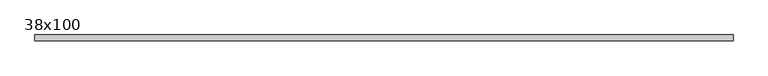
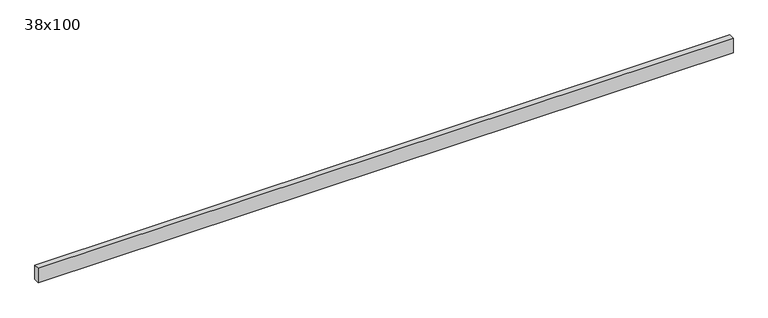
"""IFC4 building model written with IfcOpenShell, lengths in millimetres: beam geometry, Poutre - Bois de construction de dimensions courantes : 38x100."""

from ifc_helpers import new_model, si_unit, frame, origin, place, context, project, spatial, polyline, outline, extrude, source, transform, mapped, element, save


def beam_38x100_3fdc428f(model_context):
    return source(origin(), model_context, "Body", "SweptSolid", [
        extrude(outline(polyline([(2190.0, 19.05), (2190.0, -19.05), (-2350.0, -19.05), (-2350.0, 19.05), (2190.0, 19.05)])), frame((0.0, 0.0, -50.0), z_axis=(0.0, 0.0, 1.0), x_axis=(1.0, 0.0, 0.0)), (0.0, 0.0, 1.0), 100.0),
    ])


if __name__ == "__main__":
    model = new_model("IFC4")
    model_context = context("Model", 3, world=origin())
    ifc_project = project(units=[si_unit("LENGTHUNIT", "METRE", prefix="MILLI")], contexts=[model_context])
    site = spatial("IfcSite", under=ifc_project)
    building = spatial("IfcBuilding", under=site)
    placement = place(None, origin())
    beam_38x100_shape = beam_38x100_3fdc428f(model_context)
    element("IfcBeam", 1, ObjectType="Poutre - Bois de construction de dimensions courantes : 38x100", at=placement, inside=building, context=model_context, shape_type="MappedRepresentation", body=[
        mapped(beam_38x100_shape, transform((0.0, 0.0, 0.0), x_axis=(1.0, 0.0, 0.0), y_axis=(0.0, 1.0, 0.0), z_axis=(0.0, 0.0, 1.0))),
    ])
    save(model, "model.ifc")
